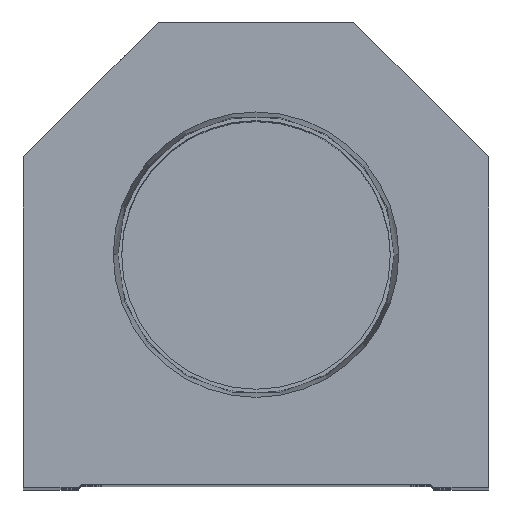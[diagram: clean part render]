
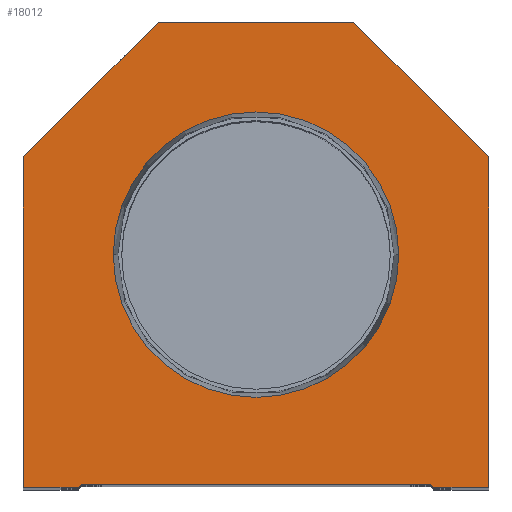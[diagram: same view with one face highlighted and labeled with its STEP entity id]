
A CAD part, top view. The second image highlights one B-rep face of the part: STEP entity #18012.
In plain terms, the highlighted planar face has unit normal (0, 0, 1).
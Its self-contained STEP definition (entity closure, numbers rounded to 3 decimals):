
#128 = ORIENTED_EDGE ( 'NONE', *, *, #6512, .T. ) ;
#312 = EDGE_CURVE ( 'NONE', #1955, #11998, #10621, .T. ) ;
#324 = CARTESIAN_POINT ( 'NONE',  ( 38.1, 54.1, 0. ) ) ;
#650 = CARTESIAN_POINT ( 'NONE',  ( 38.1, 54.1, 0. ) ) ;
#976 = EDGE_CURVE ( 'NONE', #18416, #11709, #17980, .T. ) ;
#1003 = CARTESIAN_POINT ( 'NONE',  ( 14.55, 14.55, 0. ) ) ;
#1174 = EDGE_CURVE ( 'NONE', #5450, #2676, #11805, .T. ) ;
#1196 = DIRECTION ( 'NONE',  ( -1., 0., 0. ) ) ;
#1424 = VECTOR ( 'NONE', #8262, 1000. ) ;
#1512 = VECTOR ( 'NONE', #1196, 1000. ) ;
#1720 = ORIENTED_EDGE ( 'NONE', *, *, #20826, .T. ) ;
#1926 = CARTESIAN_POINT ( 'NONE',  ( 28.6, 0., 0. ) ) ;
#1955 = VERTEX_POINT ( 'NONE', #15182 ) ;
#1986 = CARTESIAN_POINT ( 'NONE',  ( -38.1, 0., 0. ) ) ;
#2142 = EDGE_CURVE ( 'NONE', #5574, #5450, #10773, .T. ) ;
#2229 = ORIENTED_EDGE ( 'NONE', *, *, #8589, .F. ) ;
#2381 = VERTEX_POINT ( 'NONE', #9662 ) ;
#2445 = EDGE_CURVE ( 'NONE', #2381, #16499, #10738, .T. ) ;
#2557 = LINE ( 'NONE', #17581, #5082 ) ;
#2586 = PLANE ( 'NONE',  #15453 ) ;
#2676 = VERTEX_POINT ( 'NONE', #10344 ) ;
#2798 = VECTOR ( 'NONE', #21075, 1000. ) ;
#2864 = CARTESIAN_POINT ( 'NONE',  ( -38.1, 54.1, 0. ) ) ;
#2967 = DIRECTION ( 'NONE',  ( 0., 1., 0. ) ) ;
#3366 = CARTESIAN_POINT ( 'NONE',  ( -38.1, 0., 0. ) ) ;
#3586 = ORIENTED_EDGE ( 'NONE', *, *, #19103, .T. ) ;
#4233 = CARTESIAN_POINT ( 'NONE',  ( 0., 0., 0. ) ) ;
#4782 = AXIS2_PLACEMENT_3D ( 'NONE', #17845, #9562, #19718 ) ;
#4882 = ORIENTED_EDGE ( 'NONE', *, *, #312, .T. ) ;
#4988 = VECTOR ( 'NONE', #8899, 1000. ) ;
#5082 = VECTOR ( 'NONE', #9293, 1000. ) ;
#5450 = VERTEX_POINT ( 'NONE', #21709 ) ;
#5574 = VERTEX_POINT ( 'NONE', #6899 ) ;
#5644 = CARTESIAN_POINT ( 'NONE',  ( -38.1, 54.1, 0. ) ) ;
#6257 = LINE ( 'NONE', #9469, #17651 ) ;
#6368 = ORIENTED_EDGE ( 'NONE', *, *, #14950, .T. ) ;
#6512 = EDGE_CURVE ( 'NONE', #8023, #18416, #16226, .T. ) ;
#6875 = DIRECTION ( 'NONE',  ( 1., 0., 0. ) ) ;
#6899 = CARTESIAN_POINT ( 'NONE',  ( 28.6, 0.5, 0. ) ) ;
#7436 = ORIENTED_EDGE ( 'NONE', *, *, #12358, .T. ) ;
#7709 = EDGE_CURVE ( 'NONE', #20722, #1955, #2557, .T. ) ;
#7757 = ORIENTED_EDGE ( 'NONE', *, *, #7709, .T. ) ;
#8023 = VERTEX_POINT ( 'NONE', #18390 ) ;
#8262 = DIRECTION ( 'NONE',  ( -0.707, -0.707, 0. ) ) ;
#8589 = EDGE_CURVE ( 'NONE', #16499, #2381, #12282, .T. ) ;
#8899 = DIRECTION ( 'NONE',  ( 0.707, 0.707, 0. ) ) ;
#9288 = ORIENTED_EDGE ( 'NONE', *, *, #1174, .T. ) ;
#9293 = DIRECTION ( 'NONE',  ( 1., 0., 0. ) ) ;
#9435 = LINE ( 'NONE', #3366, #20085 ) ;
#9469 = CARTESIAN_POINT ( 'NONE',  ( 38.1, 0., 0. ) ) ;
#9555 = VECTOR ( 'NONE', #20177, 1000. ) ;
#9562 = DIRECTION ( 'NONE',  ( 0., 0., 1. ) ) ;
#9662 = CARTESIAN_POINT ( 'NONE',  ( -23.374, 38.1, 0. ) ) ;
#10344 = CARTESIAN_POINT ( 'NONE',  ( 38.1, 0., 0. ) ) ;
#10621 = LINE ( 'NONE', #13831, #4988 ) ;
#10667 = DIRECTION ( 'NONE',  ( 1., 0., 0. ) ) ;
#10738 = CIRCLE ( 'NONE', #4782, 23.374 ) ;
#10773 = LINE ( 'NONE', #1003, #2798 ) ;
#10945 = EDGE_LOOP ( 'NONE', ( #7757, #4882, #6368, #12948, #9288, #1720, #3586, #128, #20614, #7436 ) ) ;
#11238 = EDGE_LOOP ( 'NONE', ( #2229, #18345 ) ) ;
#11709 = VERTEX_POINT ( 'NONE', #5644 ) ;
#11805 = LINE ( 'NONE', #1926, #15927 ) ;
#11998 = VERTEX_POINT ( 'NONE', #20620 ) ;
#12282 = CIRCLE ( 'NONE', #12633, 23.374 ) ;
#12358 = EDGE_CURVE ( 'NONE', #11709, #20722, #9435, .T. ) ;
#12518 = DIRECTION ( 'NONE',  ( 0., 0., 1. ) ) ;
#12633 = AXIS2_PLACEMENT_3D ( 'NONE', #18996, #12518, #10667 ) ;
#12801 = DIRECTION ( 'NONE',  ( 1., 0., 0. ) ) ;
#12948 = ORIENTED_EDGE ( 'NONE', *, *, #2142, .T. ) ;
#13831 = CARTESIAN_POINT ( 'NONE',  ( -14.55, 14.55, 0. ) ) ;
#13842 = LINE ( 'NONE', #324, #9555 ) ;
#14454 = FACE_OUTER_BOUND ( 'NONE', #10945, .T. ) ;
#14695 = CARTESIAN_POINT ( 'NONE',  ( 16., 76.2, 0. ) ) ;
#14950 = EDGE_CURVE ( 'NONE', #11998, #5574, #16563, .T. ) ;
#15182 = CARTESIAN_POINT ( 'NONE',  ( -29.1, 0., 0. ) ) ;
#15453 = AXIS2_PLACEMENT_3D ( 'NONE', #4233, #21134, #12801 ) ;
#15927 = VECTOR ( 'NONE', #6875, 1000. ) ;
#16226 = LINE ( 'NONE', #14695, #1512 ) ;
#16499 = VERTEX_POINT ( 'NONE', #17776 ) ;
#16563 = LINE ( 'NONE', #17966, #20246 ) ;
#16740 = CARTESIAN_POINT ( 'NONE',  ( -16., 76.2, 0. ) ) ;
#17581 = CARTESIAN_POINT ( 'NONE',  ( -28.6, 0., 0. ) ) ;
#17651 = VECTOR ( 'NONE', #2967, 1000. ) ;
#17776 = CARTESIAN_POINT ( 'NONE',  ( 23.374, 38.1, 0. ) ) ;
#17845 = CARTESIAN_POINT ( 'NONE',  ( 0., 38.1, 0. ) ) ;
#17966 = CARTESIAN_POINT ( 'NONE',  ( -28.6, 0.5, 0. ) ) ;
#17980 = LINE ( 'NONE', #2864, #1424 ) ;
#18012 = ADVANCED_FACE ( 'NONE', ( #19046, #14454 ), #2586, .T. ) ;
#18044 = DIRECTION ( 'NONE',  ( 0., -1., 0. ) ) ;
#18070 = DIRECTION ( 'NONE',  ( 1., 0., 0. ) ) ;
#18345 = ORIENTED_EDGE ( 'NONE', *, *, #2445, .F. ) ;
#18390 = CARTESIAN_POINT ( 'NONE',  ( 16., 76.2, 0. ) ) ;
#18416 = VERTEX_POINT ( 'NONE', #16740 ) ;
#18996 = CARTESIAN_POINT ( 'NONE',  ( 0., 38.1, 0. ) ) ;
#19046 = FACE_BOUND ( 'NONE', #11238, .T. ) ;
#19103 = EDGE_CURVE ( 'NONE', #20222, #8023, #13842, .T. ) ;
#19718 = DIRECTION ( 'NONE',  ( 1., 0., 0. ) ) ;
#20085 = VECTOR ( 'NONE', #18044, 1000. ) ;
#20177 = DIRECTION ( 'NONE',  ( -0.707, 0.707, 0. ) ) ;
#20222 = VERTEX_POINT ( 'NONE', #650 ) ;
#20246 = VECTOR ( 'NONE', #18070, 1000. ) ;
#20614 = ORIENTED_EDGE ( 'NONE', *, *, #976, .T. ) ;
#20620 = CARTESIAN_POINT ( 'NONE',  ( -28.6, 0.5, 0. ) ) ;
#20722 = VERTEX_POINT ( 'NONE', #1986 ) ;
#20826 = EDGE_CURVE ( 'NONE', #2676, #20222, #6257, .T. ) ;
#21075 = DIRECTION ( 'NONE',  ( 0.707, -0.707, 0. ) ) ;
#21134 = DIRECTION ( 'NONE',  ( 0., 0., 1. ) ) ;
#21709 = CARTESIAN_POINT ( 'NONE',  ( 29.1, 0., 0. ) ) ;
